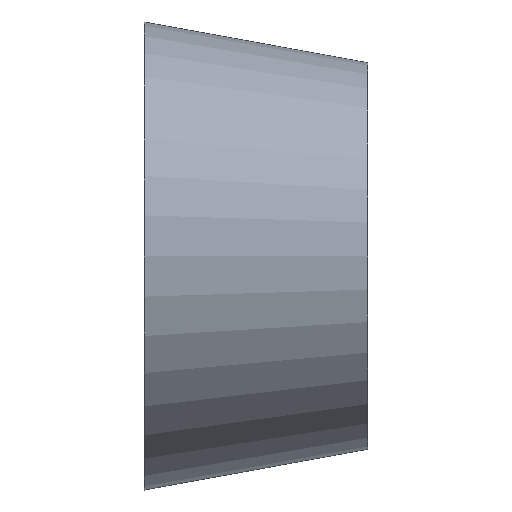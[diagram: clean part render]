
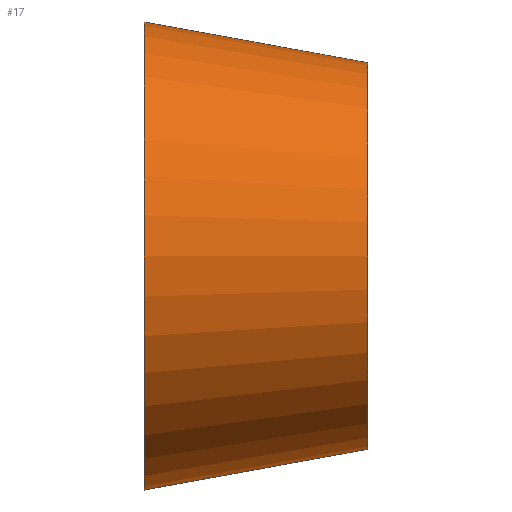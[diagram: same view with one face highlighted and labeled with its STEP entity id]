
A CAD part, front view. The second image highlights one B-rep face of the part: STEP entity #17.
In plain terms, the highlighted free-form (B-spline) face has degree [14, 1] with [15, 2] control points.
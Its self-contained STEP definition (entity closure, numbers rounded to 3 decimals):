
#17 = ADVANCED_FACE('',(#18),#31,.T.);
#18 = FACE_BOUND('',#19,.T.);
#19 = EDGE_LOOP('',(#20,#80,#102,#129));
#20 = ORIENTED_EDGE('',*,*,#21,.T.);
#21 = EDGE_CURVE('',#22,#22,#24,.T.);
#22 = VERTEX_POINT('',#23);
#23 = CARTESIAN_POINT('',(0.,11.5,0.));
#24 = SURFACE_CURVE('',#25,(#30,#68),.PCURVE_S1.);
#25 = CIRCLE('',#26,11.5);
#26 = AXIS2_PLACEMENT_3D('',#27,#28,#29);
#27 = CARTESIAN_POINT('',(0.,0.,0.));
#28 = DIRECTION('',(1.,0.,0.));
#29 = DIRECTION('',(0.,1.,0.));
#30 = PCURVE('',#31,#62);
#31 = B_SPLINE_SURFACE_WITH_KNOTS('',14,1,(
    (#32,#33)
    ,(#34,#35)
    ,(#36,#37)
    ,(#38,#39)
    ,(#40,#41)
    ,(#42,#43)
    ,(#44,#45)
    ,(#46,#47)
    ,(#48,#49)
    ,(#50,#51)
    ,(#52,#53)
    ,(#54,#55)
    ,(#56,#57)
    ,(#58,#59)
    ,(#60,#61
    )),.UNSPECIFIED.,.T.,.F.,.F.,(15,15),(2,2),(0.,6.283),(0.,1.
    ),.PIECEWISE_BEZIER_KNOTS.);
#32 = CARTESIAN_POINT('',(0.,11.5,0.));
#33 = CARTESIAN_POINT('',(11.,7.5,0.));
#34 = CARTESIAN_POINT('',(0.,11.5,5.161));
#35 = CARTESIAN_POINT('',(11.,7.5,4.264));
#36 = CARTESIAN_POINT('',(0.,9.005,10.322));
#37 = CARTESIAN_POINT('',(11.,5.439,8.527));
#38 = CARTESIAN_POINT('',(0.,4.016,14.177));
#39 = CARTESIAN_POINT('',(11.,1.318,11.712
    ));
#40 = CARTESIAN_POINT('',(0.,-2.721,15.42));
#41 = CARTESIAN_POINT('',(11.,-4.248,
    12.739));
#42 = CARTESIAN_POINT('',(0.,-9.715,13.213));
#43 = CARTESIAN_POINT('',(11.,-10.025,
    10.915));
#44 = CARTESIAN_POINT('',(0.,-15.054,7.658));
#45 = CARTESIAN_POINT('',(11.,-14.436,6.326
    ));
#46 = CARTESIAN_POINT('',(0.,-17.064,0.));
#47 = CARTESIAN_POINT('',(11.,-16.096,
    0.));
#48 = CARTESIAN_POINT('',(0.,-15.054,-7.658));
#49 = CARTESIAN_POINT('',(11.,-14.436,
    -6.326));
#50 = CARTESIAN_POINT('',(0.,-9.715,-13.213));
#51 = CARTESIAN_POINT('',(11.,-10.025,-10.915
    ));
#52 = CARTESIAN_POINT('',(0.,-2.721,-15.42));
#53 = CARTESIAN_POINT('',(11.,-4.248,
    -12.739));
#54 = CARTESIAN_POINT('',(0.,4.016,-14.177));
#55 = CARTESIAN_POINT('',(11.,1.318,-11.712)
  );
#56 = CARTESIAN_POINT('',(0.,9.005,-10.322));
#57 = CARTESIAN_POINT('',(11.,5.439,-8.527
    ));
#58 = CARTESIAN_POINT('',(0.,11.5,-5.161));
#59 = CARTESIAN_POINT('',(11.,7.5,-4.264)
  );
#60 = CARTESIAN_POINT('',(0.,11.5,0.));
#61 = CARTESIAN_POINT('',(11.,7.5,0.));
#62 = DEFINITIONAL_REPRESENTATION('',(#63),#67);
#63 = LINE('',#64,#65);
#64 = CARTESIAN_POINT('',(0.,0.));
#65 = VECTOR('',#66,1.);
#66 = DIRECTION('',(1.,0.));
#67 = ( GEOMETRIC_REPRESENTATION_CONTEXT(2) 
PARAMETRIC_REPRESENTATION_CONTEXT() REPRESENTATION_CONTEXT('2D SPACE',''
  ) );
#68 = PCURVE('',#69,#74);
#69 = PLANE('',#70);
#70 = AXIS2_PLACEMENT_3D('',#71,#72,#73);
#71 = CARTESIAN_POINT('',(0.,0.,0.));
#72 = DIRECTION('',(1.,0.,0.));
#73 = DIRECTION('',(0.,1.,0.));
#74 = DEFINITIONAL_REPRESENTATION('',(#75),#79);
#75 = CIRCLE('',#76,11.5);
#76 = AXIS2_PLACEMENT_2D('',#77,#78);
#77 = CARTESIAN_POINT('',(0.,0.));
#78 = DIRECTION('',(1.,0.));
#79 = ( GEOMETRIC_REPRESENTATION_CONTEXT(2) 
PARAMETRIC_REPRESENTATION_CONTEXT() REPRESENTATION_CONTEXT('2D SPACE',''
  ) );
#80 = ORIENTED_EDGE('',*,*,#81,.T.);
#81 = EDGE_CURVE('',#22,#82,#84,.T.);
#82 = VERTEX_POINT('',#83);
#83 = CARTESIAN_POINT('',(11.,7.5,0.));
#84 = SEAM_CURVE('',#85,(#88,#95),.PCURVE_S1.);
#85 = B_SPLINE_CURVE_WITH_KNOTS('',1,(#86,#87),.UNSPECIFIED.,.F.,.F.,(2,
    2),(0.,1.),.PIECEWISE_BEZIER_KNOTS.);
#86 = CARTESIAN_POINT('',(0.,11.5,0.));
#87 = CARTESIAN_POINT('',(11.,7.5,0.));
#88 = PCURVE('',#31,#89);
#89 = DEFINITIONAL_REPRESENTATION('',(#90),#94);
#90 = LINE('',#91,#92);
#91 = CARTESIAN_POINT('',(6.283,0.));
#92 = VECTOR('',#93,1.);
#93 = DIRECTION('',(0.,1.));
#94 = ( GEOMETRIC_REPRESENTATION_CONTEXT(2) 
PARAMETRIC_REPRESENTATION_CONTEXT() REPRESENTATION_CONTEXT('2D SPACE',''
  ) );
#95 = PCURVE('',#31,#96);
#96 = DEFINITIONAL_REPRESENTATION('',(#97),#101);
#97 = LINE('',#98,#99);
#98 = CARTESIAN_POINT('',(0.,0.));
#99 = VECTOR('',#100,1.);
#100 = DIRECTION('',(0.,1.));
#101 = ( GEOMETRIC_REPRESENTATION_CONTEXT(2) 
PARAMETRIC_REPRESENTATION_CONTEXT() REPRESENTATION_CONTEXT('2D SPACE',''
  ) );
#102 = ORIENTED_EDGE('',*,*,#103,.F.);
#103 = EDGE_CURVE('',#82,#82,#104,.T.);
#104 = SURFACE_CURVE('',#105,(#110,#117),.PCURVE_S1.);
#105 = CIRCLE('',#106,9.5);
#106 = AXIS2_PLACEMENT_3D('',#107,#108,#109);
#107 = CARTESIAN_POINT('',(11.,-2.,0.));
#108 = DIRECTION('',(1.,0.,0.));
#109 = DIRECTION('',(0.,1.,0.));
#110 = PCURVE('',#31,#111);
#111 = DEFINITIONAL_REPRESENTATION('',(#112),#116);
#112 = LINE('',#113,#114);
#113 = CARTESIAN_POINT('',(0.,1.));
#114 = VECTOR('',#115,1.);
#115 = DIRECTION('',(1.,0.));
#116 = ( GEOMETRIC_REPRESENTATION_CONTEXT(2) 
PARAMETRIC_REPRESENTATION_CONTEXT() REPRESENTATION_CONTEXT('2D SPACE',''
  ) );
#117 = PCURVE('',#118,#123);
#118 = PLANE('',#119);
#119 = AXIS2_PLACEMENT_3D('',#120,#121,#122);
#120 = CARTESIAN_POINT('',(11.,-2.,0.));
#121 = DIRECTION('',(1.,0.,0.));
#122 = DIRECTION('',(0.,1.,0.));
#123 = DEFINITIONAL_REPRESENTATION('',(#124),#128);
#124 = CIRCLE('',#125,9.5);
#125 = AXIS2_PLACEMENT_2D('',#126,#127);
#126 = CARTESIAN_POINT('',(0.,0.));
#127 = DIRECTION('',(1.,0.));
#128 = ( GEOMETRIC_REPRESENTATION_CONTEXT(2) 
PARAMETRIC_REPRESENTATION_CONTEXT() REPRESENTATION_CONTEXT('2D SPACE',''
  ) );
#129 = ORIENTED_EDGE('',*,*,#81,.F.);
